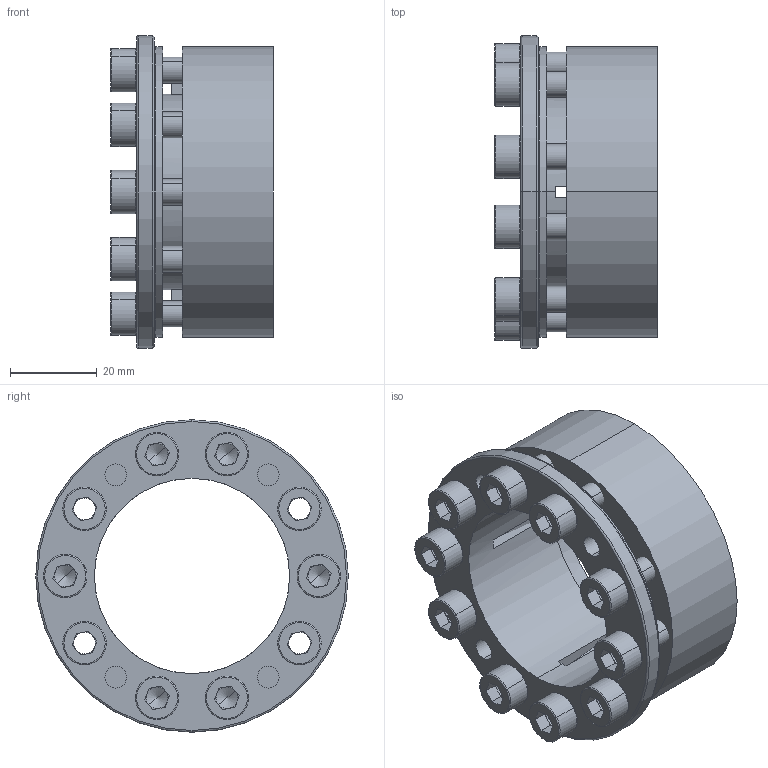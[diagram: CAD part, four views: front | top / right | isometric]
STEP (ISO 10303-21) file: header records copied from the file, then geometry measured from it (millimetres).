
FILE_DESCRIPTION (( 'STEP AP203' ), '1' );
FILE_NAME ('SAPL-45-67.STEP', '2018-04-24T10:12:00', ( '' ), ( '' ), 'SwSTEP 2.0', 'SolidWorks 2015', '' );
FILE_SCHEMA (( 'CONFIG_CONTROL_DESIGN' ));
Length unit declared in the file: millimetre
Products named in the file (1): SAPL-45-67
Bounding box: 37.5 x 72 x 72 mm (x, y, z)
Surface area: 31384 mm2 (no closed solid volume)
Topology: 0 solids, 22 shells, 323 faces, 800 edges, 482 vertices
Faces by surface type: plane 147, cylinder 116, torus 46, cone 14
Entity records: 9628 total; most frequent: DIRECTION 1814, CARTESIAN_POINT 1654, ORIENTED_EDGE 1478, EDGE_CURVE 788, AXIS2_PLACEMENT_3D 710, VERTEX_POINT 482, LINE 394, VECTOR 394
